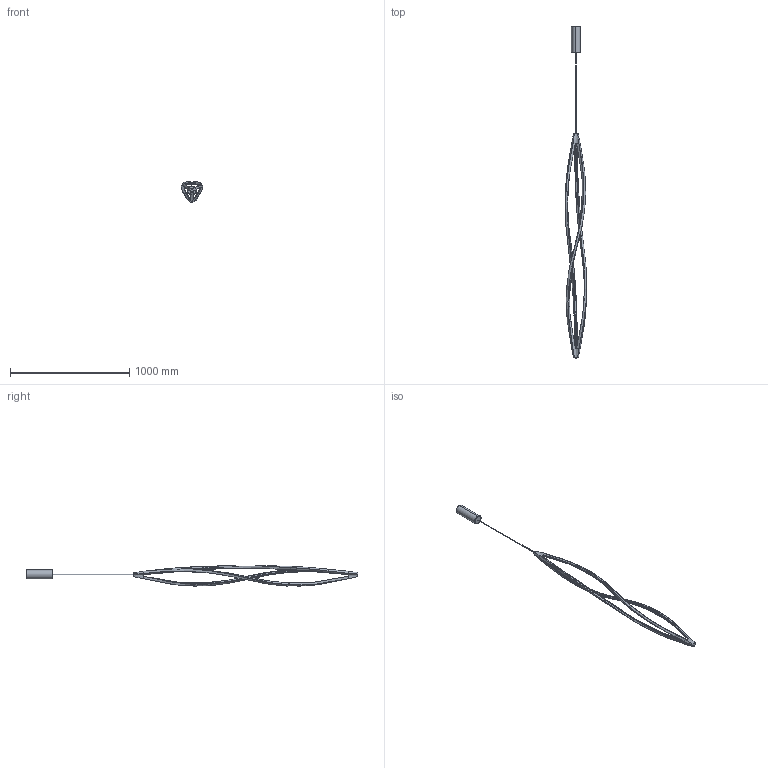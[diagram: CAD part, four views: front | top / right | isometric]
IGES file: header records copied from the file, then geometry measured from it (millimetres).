
Start section: SolidWorks IGES file using analytic representation for surfaces
Global section: file name: C:\Users\tungari.NEMOLIGHTING\Desktop\3D\PENDANT\3D_IN_THE_WIND_VERTICAL\DEFEATURE_IN_THE_WIND_VERTICAL\3D_IN_THE_WIND_V.IGS; native system: SolidWorks 2016; preprocessor: SolidWorks 2016; author: tungari; date: 180223.165327; units: millimetre
Bounding box: 180.96 x 2778.5 x 169.45 mm (x, y, z)
Surface area: 782182.7 mm2 (no closed solid volume)
Topology: 0 solids, 0 shells, 128 faces, 1062 edges, 1062 vertices
Faces by surface type: bspline 124, revolution 4
